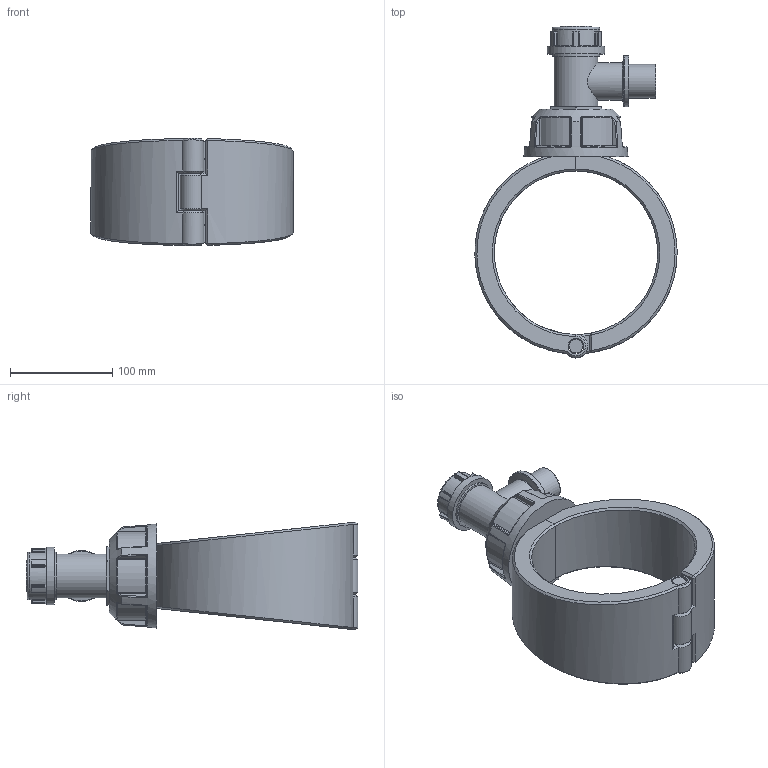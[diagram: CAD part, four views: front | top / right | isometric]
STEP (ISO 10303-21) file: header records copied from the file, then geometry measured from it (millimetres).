
FILE_DESCRIPTION(/* description */ ('Plassadle Tapper Male 160x1'''''),/* implementation_level */ '2;1');
FILE_NAME(/* name */ 'C:\Users\comp2\Dropbox\99-16-3568-Processing\Mechanical Fittings\1631R\stp\1631R0160010.stp',/* time_stamp */ '2022-02-03T12:06:50+00:00',/* author */ ('comp2'),/* organization */ (''),/* preprocessor_version */ 'ST-DEVELOPER v17.2',/* originating_system */ 'Autodesk Inventor 2019',/* authorisation */ '');
FILE_SCHEMA (('AUTOMOTIVE_DESIGN { 1 0 10303 214 3 1 1 }'));
Length unit declared in the file: millimetre
Products named in the file (1): 1631R0160010
Bounding box: 197.95 x 325 x 105.57 mm (x, y, z)
Volume: 1350980.9 mm3; surface area: 181037.9 mm2
Topology: 4 solids, 4 shells, 341 faces, 833 edges, 509 vertices
Faces by surface type: cylinder 110, plane 82, bspline 70, torus 40, sphere 24, cone 15
Full cylindrical faces by diameter (mm): 13.36 x1, 15.36 x3, 24.937 x1, 30.6 x1, 33.249 x1, 36.574 x1, 42.84 x1, 46.84 x2, 49.873 x1, 56.1 x1
Entity records: 13154 total; most frequent: CARTESIAN_POINT 5516, ORIENTED_EDGE 1666, DIRECTION 1492, EDGE_CURVE 833, AXIS2_PLACEMENT_3D 627, VERTEX_POINT 509, EDGE_LOOP 356, FACE_OUTER_BOUND 341
